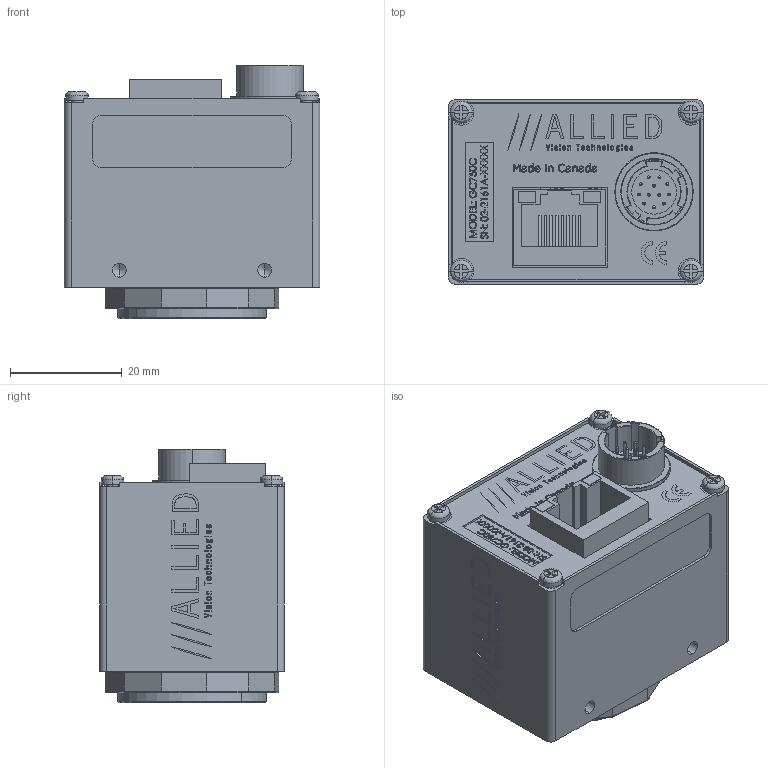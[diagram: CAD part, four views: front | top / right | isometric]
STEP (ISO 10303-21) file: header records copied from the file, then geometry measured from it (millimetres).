
FILE_DESCRIPTION (( 'STEP AP214' ), '1' );
FILE_NAME ('GC750C.STEP', '2013-07-31T16:14:21', ( '' ), ( '' ), 'SwSTEP 2.0', 'SolidWorks 2013', '' );
FILE_SCHEMA (( 'AUTOMOTIVE_DESIGN' ));
Length unit declared in the file: millimetre
Products named in the file (21): 200020BA-PCB ASSEMBLY EC750C SENSOR-with sensor; 110043A GC BACK PLATE - WO HW; 220046-MICRON MT9V022177ATC; GC750C; MT9V022 PACKAGE; MT9V022 WINDOW; 110040A-B LOCKING RING CS MOUNT; 740032B-GC MAIN LABEL; 200047A-A GC INTERFACE PCB ASSY; 260033-AMPHENOL RJHS-3381; 260034-HIROSE HR10A-10R-12PB; 140013-washer spring lock M2; 110047B-GC-CMOS FRONT_Finished with logo; 100097A-IR FILTER ASSEMBLY 0.75 INCH; 110054AB-IR FILTER SUPPORT; 440002-IR CUT FILTER 22MM DIA; 740070AA-GC750C LABEL PRINT; 140017-SCREW PAN M2x4 SS; 140018-SCREW PAN M2x8 SS; 110039A-C ADJUSTABLE CS MOUNT RING; 110043A GC BACK PLATE
Assembly tree (25 placements, depth 4):
  GC750C
    110043A GC BACK PLATE
      110043A GC BACK PLATE - WO HW
    110039A-C ADJUSTABLE CS MOUNT RING
    140018-SCREW PAN M2x8 SS  x2
    140017-SCREW PAN M2x4 SS  x4
    740070AA-GC750C LABEL PRINT
    100097A-IR FILTER ASSEMBLY 0.75 INCH
      440002-IR CUT FILTER 22MM DIA
      110054AB-IR FILTER SUPPORT
    110047B-GC-CMOS FRONT_Finished with logo
    140013-washer spring lock M2  x2
    260034-HIROSE HR10A-10R-12PB
    200047A-A GC INTERFACE PCB ASSY
      260033-AMPHENOL RJHS-3381
    110040A-B LOCKING RING CS MOUNT
    200020BA-PCB ASSEMBLY EC750C SENSOR-with sensor
      220046-MICRON MT9V022177ATC
        MT9V022 WINDOW
        MT9V022 PACKAGE
    740032B-GC MAIN LABEL
Bounding box: 45.72 x 33.02 x 45.39 mm (x, y, z)
Volume: 18604.1 mm3; surface area: 26615.9 mm2
Topology: 20 solids, 20 shells, 2803 faces, 7575 edges, 4830 vertices
Faces by surface type: plane 1455, bspline 952, cylinder 240, cone 156
Entity records: 146111 total; most frequent: CARTESIAN_POINT 55509, ORIENTED_EDGE 13994, DIRECTION 9503, EDGE_CURVE 6997, VERTEX_POINT 4640, LINE 4275, VECTOR 4275, EDGE_LOOP 3033
